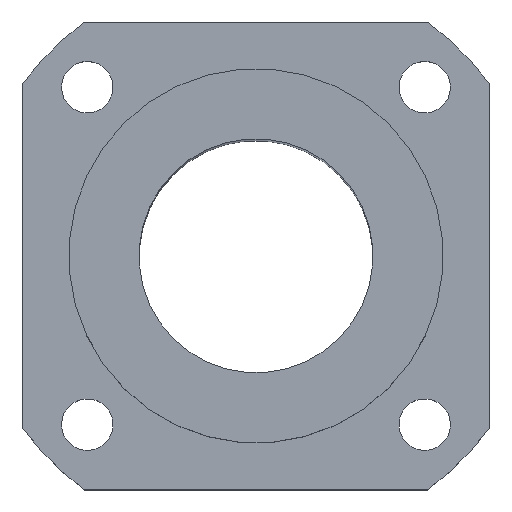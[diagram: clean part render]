
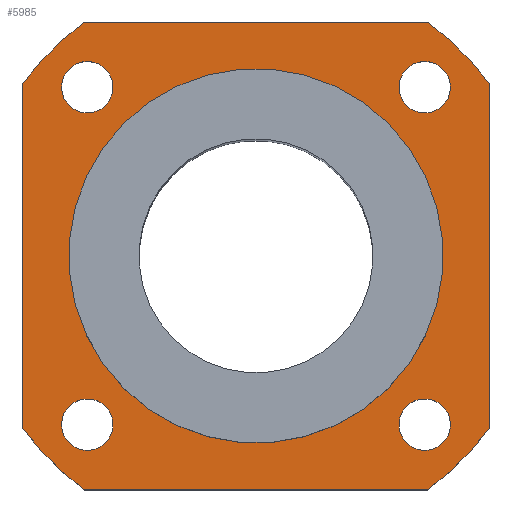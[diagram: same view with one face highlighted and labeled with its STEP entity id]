
A CAD part, top view. The second image highlights one B-rep face of the part: STEP entity #5985.
In plain terms, the highlighted planar face has unit normal (0, 0, 1).
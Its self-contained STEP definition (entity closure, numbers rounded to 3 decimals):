
#111=CIRCLE('',#6355,31.);
#112=CIRCLE('',#6357,31.);
#113=CIRCLE('',#6359,31.);
#114=CIRCLE('',#6361,31.);
#115=CIRCLE('',#6363,2.75);
#116=CIRCLE('',#6364,2.75);
#117=CIRCLE('',#6365,2.75);
#118=CIRCLE('',#6366,2.75);
#119=CIRCLE('',#6367,20.);
#546=ORIENTED_EDGE('',*,*,#2276,.F.);
#547=ORIENTED_EDGE('',*,*,#2277,.F.);
#548=ORIENTED_EDGE('',*,*,#2278,.F.);
#549=ORIENTED_EDGE('',*,*,#2279,.F.);
#550=ORIENTED_EDGE('',*,*,#2280,.T.);
#551=ORIENTED_EDGE('',*,*,#2268,.T.);
#552=ORIENTED_EDGE('',*,*,#2281,.T.);
#553=ORIENTED_EDGE('',*,*,#2264,.T.);
#554=ORIENTED_EDGE('',*,*,#2282,.T.);
#555=ORIENTED_EDGE('',*,*,#2274,.T.);
#556=ORIENTED_EDGE('',*,*,#2283,.T.);
#557=ORIENTED_EDGE('',*,*,#2271,.T.);
#558=ORIENTED_EDGE('',*,*,#2284,.T.);
#2264=EDGE_CURVE('',#3131,#3132,#111,.T.);
#2268=EDGE_CURVE('',#3134,#3133,#112,.T.);
#2271=EDGE_CURVE('',#3136,#3135,#113,.T.);
#2274=EDGE_CURVE('',#3138,#3137,#114,.T.);
#2276=EDGE_CURVE('',#3139,#3139,#115,.T.);
#2277=EDGE_CURVE('',#3140,#3140,#116,.T.);
#2278=EDGE_CURVE('',#3141,#3141,#117,.T.);
#2279=EDGE_CURVE('',#3142,#3142,#118,.T.);
#2280=EDGE_CURVE('',#3143,#3143,#119,.F.);
#2281=EDGE_CURVE('',#3133,#3131,#3662,.T.);
#2282=EDGE_CURVE('',#3132,#3138,#3663,.T.);
#2283=EDGE_CURVE('',#3137,#3136,#3664,.T.);
#2284=EDGE_CURVE('',#3135,#3134,#3665,.T.);
#3131=VERTEX_POINT('',#9449);
#3132=VERTEX_POINT('',#9450);
#3133=VERTEX_POINT('',#9455);
#3134=VERTEX_POINT('',#9457);
#3135=VERTEX_POINT('',#9461);
#3136=VERTEX_POINT('',#9463);
#3137=VERTEX_POINT('',#9467);
#3138=VERTEX_POINT('',#9469);
#3139=VERTEX_POINT('',#9473);
#3140=VERTEX_POINT('',#9475);
#3141=VERTEX_POINT('',#9477);
#3142=VERTEX_POINT('',#9479);
#3143=VERTEX_POINT('',#9481);
#3662=LINE('',#9482,#4369);
#3663=LINE('',#9483,#4370);
#3664=LINE('',#9484,#4371);
#3665=LINE('',#9485,#4372);
#4369=VECTOR('',#6931,1000.);
#4370=VECTOR('',#6932,1000.);
#4371=VECTOR('',#6933,1000.);
#4372=VECTOR('',#6934,1000.);
#4910=EDGE_LOOP('',(#546));
#4911=EDGE_LOOP('',(#547));
#4912=EDGE_LOOP('',(#548));
#4913=EDGE_LOOP('',(#549));
#4914=EDGE_LOOP('',(#550));
#4915=EDGE_LOOP('',(#551,#552,#553,#554,#555,#556,#557,#558));
#5335=FACE_BOUND('',#4910,.T.);
#5336=FACE_BOUND('',#4911,.T.);
#5337=FACE_BOUND('',#4912,.T.);
#5338=FACE_BOUND('',#4913,.T.);
#5339=FACE_BOUND('',#4914,.T.);
#5340=FACE_BOUND('',#4915,.T.);
#5712=PLANE('',#6362);
#5985=ADVANCED_FACE('',(#5335,#5336,#5337,#5338,#5339,#5340),#5712,.T.);
#6355=AXIS2_PLACEMENT_3D('',#9448,#6897,#6898);
#6357=AXIS2_PLACEMENT_3D('',#9456,#6904,#6905);
#6359=AXIS2_PLACEMENT_3D('',#9462,#6910,#6911);
#6361=AXIS2_PLACEMENT_3D('',#9468,#6916,#6917);
#6362=AXIS2_PLACEMENT_3D('',#9471,#6919,#6920);
#6363=AXIS2_PLACEMENT_3D('',#9472,#6921,#6922);
#6364=AXIS2_PLACEMENT_3D('',#9474,#6923,#6924);
#6365=AXIS2_PLACEMENT_3D('',#9476,#6925,#6926);
#6366=AXIS2_PLACEMENT_3D('',#9478,#6927,#6928);
#6367=AXIS2_PLACEMENT_3D('',#9480,#6929,#6930);
#6897=DIRECTION('',(0.,0.,1.));
#6898=DIRECTION('',(0.707,-0.707,0.));
#6904=DIRECTION('',(0.,0.,1.));
#6905=DIRECTION('',(0.707,-0.707,0.));
#6910=DIRECTION('',(0.,0.,1.));
#6911=DIRECTION('',(0.707,-0.707,0.));
#6916=DIRECTION('',(0.,0.,1.));
#6917=DIRECTION('',(0.707,-0.707,0.));
#6919=DIRECTION('',(0.,0.,1.));
#6920=DIRECTION('',(0.707,-0.707,0.));
#6921=DIRECTION('',(0.,0.,1.));
#6922=DIRECTION('',(0.707,-0.707,0.));
#6923=DIRECTION('',(0.,0.,1.));
#6924=DIRECTION('',(0.707,-0.707,0.));
#6925=DIRECTION('',(0.,0.,1.));
#6926=DIRECTION('',(0.707,-0.707,0.));
#6927=DIRECTION('',(0.,0.,1.));
#6928=DIRECTION('',(0.707,-0.707,0.));
#6929=DIRECTION('',(0.,0.,1.));
#6930=DIRECTION('',(0.707,-0.707,0.));
#6931=DIRECTION('',(0.,-1.,0.));
#6932=DIRECTION('',(1.,0.,0.));
#6933=DIRECTION('',(0.,1.,0.));
#6934=DIRECTION('',(-1.,0.,0.));
#9448=CARTESIAN_POINT('',(0.,0.,0.));
#9449=CARTESIAN_POINT('',(-25.,-18.33,0.));
#9450=CARTESIAN_POINT('',(-18.33,-25.,0.));
#9455=CARTESIAN_POINT('',(-25.,18.33,0.));
#9456=CARTESIAN_POINT('',(0.,0.,0.));
#9457=CARTESIAN_POINT('',(-18.33,25.,0.));
#9461=CARTESIAN_POINT('',(18.33,25.,0.));
#9462=CARTESIAN_POINT('',(0.,0.,0.));
#9463=CARTESIAN_POINT('',(25.,18.33,0.));
#9467=CARTESIAN_POINT('',(25.,-18.33,0.));
#9468=CARTESIAN_POINT('',(0.,0.,0.));
#9469=CARTESIAN_POINT('',(18.33,-25.,0.));
#9471=CARTESIAN_POINT('',(0.,0.,0.));
#9472=CARTESIAN_POINT('',(18.031,18.031,0.));
#9473=CARTESIAN_POINT('',(19.976,16.087,0.));
#9474=CARTESIAN_POINT('',(-18.031,18.031,0.));
#9475=CARTESIAN_POINT('',(-16.087,16.087,0.));
#9476=CARTESIAN_POINT('',(-18.031,-18.031,0.));
#9477=CARTESIAN_POINT('',(-16.087,-19.976,0.));
#9478=CARTESIAN_POINT('',(18.031,-18.031,0.));
#9479=CARTESIAN_POINT('',(19.976,-19.976,0.));
#9480=CARTESIAN_POINT('',(0.,0.,0.));
#9481=CARTESIAN_POINT('',(14.142,-14.142,0.));
#9482=CARTESIAN_POINT('',(-25.,0.,0.));
#9483=CARTESIAN_POINT('',(0.,-25.,0.));
#9484=CARTESIAN_POINT('',(25.,0.,0.));
#9485=CARTESIAN_POINT('',(0.,25.,0.));
